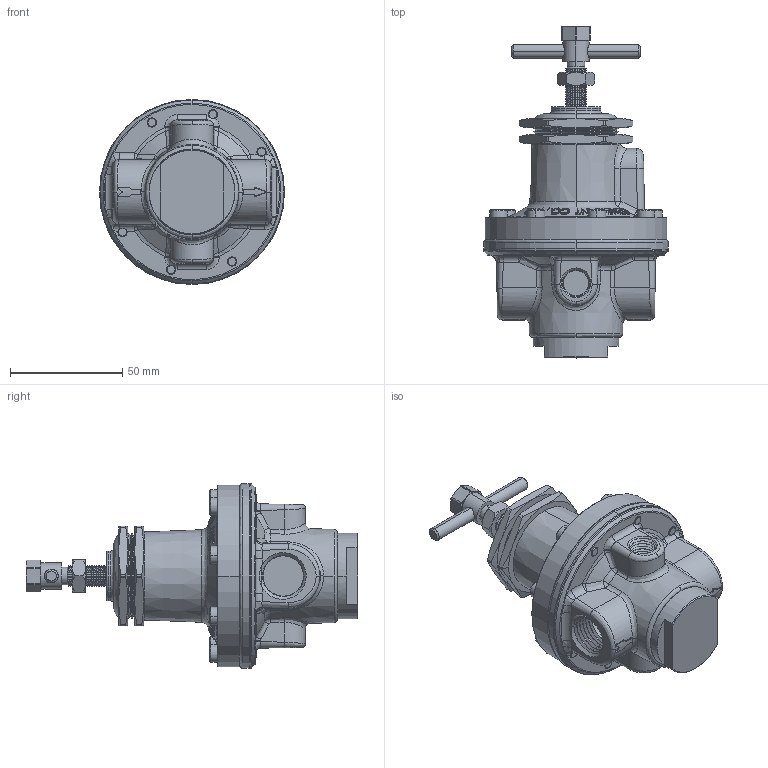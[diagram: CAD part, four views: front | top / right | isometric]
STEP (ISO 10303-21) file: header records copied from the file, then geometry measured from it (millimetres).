
FILE_DESCRIPTION (( 'STEP AP203' ), '1' );
FILE_NAME ('4GDR-4BSPT-P.STEP', '2013-03-14T15:17:42', ( '' ), ( '' ), 'SwSTEP 2.0', 'SolidWorks 2011', '' );
FILE_SCHEMA (( 'CONFIG_CONTROL_DESIGN' ));
Products named in the file (2): 4GDR-4BSPT-P; Part16^4GDR-500B-P_CM
Assembly tree (1 placements, depth 2):
  4GDR-4BSPT-P
    Part16^4GDR-500B-P_CM
Bounding box: 82.3 x 147.64 x 82.3 mm (x, y, z)
Volume: 244630.1 mm3; surface area: 39637.9 mm2
Topology: 1 solids, 6 shells, 1258 faces, 3155 edges, 1949 vertices
Faces by surface type: cone 440, plane 357, bspline 268, cylinder 193
Entity records: 50096 total; most frequent: CARTESIAN_POINT 21904, ORIENTED_EDGE 6278, DIRECTION 5317, EDGE_CURVE 3139, AXIS2_PLACEMENT_3D 2111, VERTEX_POINT 1949, EDGE_LOOP 1324, FACE_OUTER_BOUND 1258
